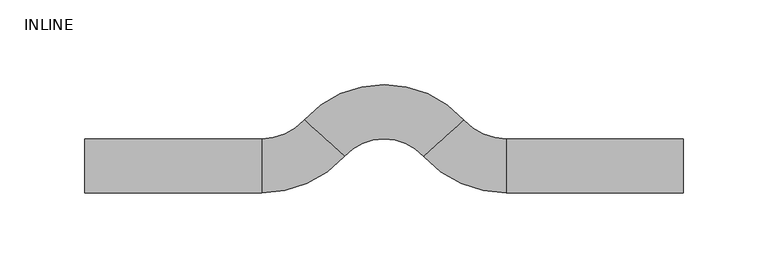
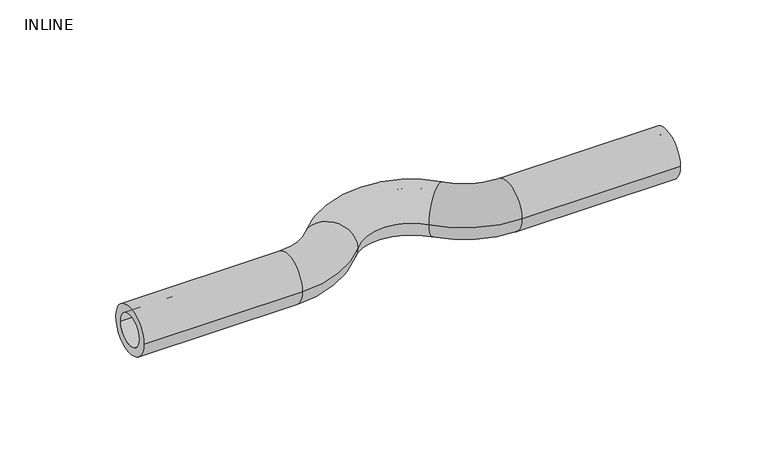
"""IFC4 building model written with IfcOpenShell, lengths in millimetres: pipe fitting geometry, Aquatherm - Cross Over : INLINE."""

from ifc_helpers import new_model, si_unit, point, frame, origin, place, context, project, spatial, polyline, circle_curve, ellipse_curve, trimmed, source, transform, mapped, element, save
from ifc_brep_helpers import plane_surface, cylinder_surface, revolved_surface, advanced_brep


def inline_933bd111(model_context):
    return source(origin(), model_context, "Body", "AdvancedBrep", [
        advanced_brep(
        [(-176.53, -16.002, 0.0), (-176.53, 16.002, 0.0), (-176.53, -10.541, 0.0), (-176.53, 10.541, 0.0), (-72.2414581, -10.541, 0.0), (-72.2414581, 10.541, 0.0), (-72.2414581, -16.002, 0.0), (-72.2414581, 16.002, 0.0), (-42.9874302, 23.5009531, 0.0), (-27.37274, 9.3364844, 0.0), (-47.0321993, 27.1700625, 0.0), (-23.3279709, 5.667375, 0.0), (42.9874302, 23.5009531, 0.0), (27.37274, 9.3364844, 0.0), (47.0321993, 27.1700625, 0.0), (23.3279709, 5.667375, 0.0), (72.2414581, 10.541, 0.0), (72.2414581, -10.541, 0.0), (72.2414581, 16.002, 0.0), (72.2414581, -16.002, 0.0), (176.53, -16.002, 0.0), (176.53, 16.002, 0.0), (176.53, -10.541, 0.0), (176.53, 10.541, 0.0)],
        [
            (0, 1, circle_curve(frame((-176.53, 0.0, 0.0), z_axis=(-1.0, 0.0, 0.0), x_axis=(0.0, 1.0, 0.0)), 16.002)),
            (1, 0, circle_curve(frame((-176.53, 0.0, 0.0), z_axis=(-1.0, 0.0, 0.0), x_axis=(0.0, 1.0, 0.0)), 16.002)),
            (2, 3, circle_curve(frame((-176.53, 0.0, 0.0), z_axis=(1.0, 0.0, 0.0), x_axis=(0.0, 1.0, 0.0)), 10.541)),
            (3, 2, circle_curve(frame((-176.53, 0.0, 0.0), z_axis=(1.0, 0.0, 0.0), x_axis=(0.0, 1.0, 0.0)), 10.541)),
            (2, 4),
            (4, 5, circle_curve(frame((-72.2414581, 0.0, 0.0), z_axis=(1.0, 0.0, 0.0), x_axis=(0.0, 1.0, 0.0)), 10.541)),
            (5, 3),
            (5, 4, circle_curve(frame((-72.2414581, 0.0, 0.0), z_axis=(1.0, 0.0, 0.0), x_axis=(0.0, 1.0, 0.0)), 10.541)),
            (0, 6),
            (6, 7, circle_curve(frame((-72.2414581, 0.0, 0.0), z_axis=(-1.0, 0.0, 0.0), x_axis=(0.0, 1.0, 0.0)), 16.002)),
            (7, 1),
            (7, 6, circle_curve(frame((-72.2414581, 0.0, 0.0), z_axis=(-1.0, 0.0, 0.0), x_axis=(0.0, 1.0, 0.0)), 16.002)),
            (8, 5, circle_curve(frame((-72.2414581, 50.038, 0.0), z_axis=(0.0, 0.0, -1.0), x_axis=(0.0, -1.0, 0.0)), 39.497)),
            (4, 9, circle_curve(frame((-72.2414581, 50.038, 0.0), z_axis=(0.0, 0.0, 1.0), x_axis=(0.0, -1.0, 0.0)), 60.579)),
            (9, 8, circle_curve(frame((-35.1800851, 16.4187187, 0.0), z_axis=(0.671875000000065, 0.7406645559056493, 0.0), x_axis=(-0.7406645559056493, 0.671875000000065, 0.0)), 10.541)),
            (8, 9, circle_curve(frame((-35.1800851, 16.4187187, 0.0), z_axis=(0.671875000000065, 0.7406645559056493, 0.0), x_axis=(-0.7406645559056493, 0.671875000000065, 0.0)), 10.541)),
            (10, 7, circle_curve(frame((-72.2414581, 50.038, 0.0), z_axis=(0.0, 0.0, -1.0), x_axis=(0.0, -1.0, 0.0)), 34.036)),
            (6, 11, circle_curve(frame((-72.2414581, 50.038, 0.0), z_axis=(0.0, 0.0, 1.0), x_axis=(0.0, -1.0, 0.0)), 66.04)),
            (11, 10, circle_curve(frame((-35.1800851, 16.4187187, 0.0), z_axis=(-0.671875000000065, -0.7406645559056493, 0.0), x_axis=(-0.7406645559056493, 0.671875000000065, 0.0)), 16.002)),
            (10, 11, circle_curve(frame((-35.1800851, 16.4187187, 0.0), z_axis=(-0.6718750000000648, -0.7406645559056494, 0.0), x_axis=(-0.7406645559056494, 0.6718750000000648, 0.0)), 16.002)),
            (12, 8, circle_curve(frame((0.0, -15.494, 0.0), z_axis=(0.0, 0.0, 1.0), x_axis=(-0.7406645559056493, 0.671875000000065, 0.0)), 58.039)),
            (9, 13, circle_curve(frame((0.0, -15.494, 0.0), z_axis=(0.0, 0.0, -1.0), x_axis=(-0.7406645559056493, 0.671875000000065, 0.0)), 36.957)),
            (13, 12, circle_curve(frame((35.1800851, 16.4187187, 0.0), z_axis=(0.6718749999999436, -0.7406645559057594, 0.0), x_axis=(0.7406645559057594, 0.6718749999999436, 0.0)), 10.541)),
            (12, 13, circle_curve(frame((35.1800851, 16.4187187, 0.0), z_axis=(0.6718749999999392, -0.7406645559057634, 0.0), x_axis=(0.7406645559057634, 0.6718749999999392, 0.0)), 10.541)),
            (14, 10, circle_curve(frame((0.0, -15.494, 0.0), z_axis=(0.0, 0.0, 1.0), x_axis=(-0.7406645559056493, 0.671875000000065, 0.0)), 63.5)),
            (11, 15, circle_curve(frame((0.0, -15.494, 0.0), z_axis=(0.0, 0.0, -1.0), x_axis=(-0.7406645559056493, 0.671875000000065, 0.0)), 31.496)),
            (15, 14, circle_curve(frame((35.1800851, 16.4187187, 0.0), z_axis=(-0.6718749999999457, 0.7406645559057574, 0.0), x_axis=(0.7406645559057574, 0.6718749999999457, 0.0)), 16.002)),
            (14, 15, circle_curve(frame((35.1800851, 16.4187187, 0.0), z_axis=(-0.6718749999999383, 0.7406645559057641, 0.0), x_axis=(0.7406645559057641, 0.6718749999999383, 0.0)), 16.002)),
            (16, 12, circle_curve(frame((72.2414581, 50.038, 0.0), z_axis=(0.0, 0.0, -1.0), x_axis=(-0.7406645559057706, -0.6718749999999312, 0.0)), 39.497)),
            (13, 17, circle_curve(frame((72.2414581, 50.038, 0.0), z_axis=(0.0, 0.0, 1.0), x_axis=(-0.7406645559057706, -0.6718749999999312, 0.0)), 60.579)),
            (17, 16, circle_curve(frame((72.2414581, 0.0, 0.0), z_axis=(1.0, 0.0, 0.0), x_axis=(0.0, 1.0, 0.0)), 10.541)),
            (16, 17, circle_curve(frame((72.2414581, 0.0, 0.0), z_axis=(1.0, 0.0, 0.0), x_axis=(0.0, 1.0, 0.0)), 10.541)),
            (18, 14, circle_curve(frame((72.2414581, 50.038, 0.0), z_axis=(0.0, 0.0, -1.0), x_axis=(-0.7406645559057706, -0.6718749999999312, 0.0)), 34.036)),
            (15, 19, circle_curve(frame((72.2414581, 50.038, 0.0), z_axis=(0.0, 0.0, 1.0), x_axis=(-0.7406645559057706, -0.6718749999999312, 0.0)), 66.04)),
            (19, 18, circle_curve(frame((72.2414581, 0.0, 0.0), z_axis=(-0.9999999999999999, 0.0, 0.0), x_axis=(0.0, 0.9999999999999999, 0.0)), 16.002)),
            (18, 19, circle_curve(frame((72.2414581, 0.0, 0.0), z_axis=(-1.0, 0.0, 0.0), x_axis=(0.0, 1.0, 0.0)), 16.002)),
            (20, 21, circle_curve(frame((176.53, 0.0, 0.0), z_axis=(1.0, 0.0, 0.0), x_axis=(0.0, 1.0, 0.0)), 16.002)),
            (21, 20, circle_curve(frame((176.53, 0.0, 0.0), z_axis=(1.0, 0.0, 0.0), x_axis=(0.0, 1.0, 0.0)), 16.002)),
            (22, 23, circle_curve(frame((176.53, 0.0, 0.0), z_axis=(-1.0, 0.0, 0.0), x_axis=(0.0, 1.0, 0.0)), 10.541)),
            (23, 22, circle_curve(frame((176.53, 0.0, 0.0), z_axis=(-1.0, 0.0, 0.0), x_axis=(0.0, 1.0, 0.0)), 10.541)),
            (17, 22),
            (23, 16),
            (19, 20),
            (21, 18),
        ],
        [
            plane_surface(frame((-176.53, 0.0, 0.0), z_axis=(-1.0, 0.0, 0.0), x_axis=(0.0, 0.0, 1.0))),
            revolved_surface(polyline([(-72.2414581, 10.541, 0.0), (-176.53, 10.541, 0.0)]), (-176.53, 0.0, 0.0), (1.0, 0.0, 0.0)),
            cylinder_surface(frame((-176.53, 0.0, 0.0), z_axis=(-1.0, 0.0, 0.0), x_axis=(0.0, 1.0, 0.0)), 16.002),
            revolved_surface(trimmed(ellipse_curve(frame((-72.2414581, 0.0, 0.0), z_axis=(1.0, 0.0, 0.0), x_axis=(0.0, 1.0, 0.0)), 10.541, 10.541), [point((-72.2414581, -10.541, 0.0))], [point((-72.2414581, 10.541, 0.0))], True, "CARTESIAN"), (-72.2414581, 50.038, 0.0), (0.0, 0.0, 1.0)),
            revolved_surface(trimmed(ellipse_curve(frame((-72.2414581, 0.0, 0.0), z_axis=(1.0, 0.0, 0.0), x_axis=(0.0, 1.0, 0.0)), 10.541, 10.541), [point((-72.2414581, 10.541, 0.0))], [point((-72.2414581, -10.541, 0.0))], True, "CARTESIAN"), (-72.2414581, 50.038, 0.0), (0.0, 0.0, 1.0)),
            revolved_surface(trimmed(ellipse_curve(frame((-72.2414581, 0.0, 0.0), z_axis=(-1.0, 0.0, 0.0), x_axis=(0.0, 1.0, 0.0)), 16.002, 16.002), [point((-72.2414581, -16.002, 0.0))], [point((-72.2414581, 16.002, 0.0))], True, "CARTESIAN"), (-72.2414581, 50.038, 0.0), (0.0, 0.0, 1.0)),
            revolved_surface(trimmed(ellipse_curve(frame((-72.2414581, 0.0, 0.0), z_axis=(-1.0, 0.0, 0.0), x_axis=(0.0, 1.0, 0.0)), 16.002, 16.002), [point((-72.2414581, 16.002, 0.0))], [point((-72.2414581, -16.002, 0.0))], True, "CARTESIAN"), (-72.2414581, 50.038, 0.0), (0.0, 0.0, 1.0)),
            revolved_surface(trimmed(ellipse_curve(frame((-35.1800851, 16.4187187, 0.0), z_axis=(0.671875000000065, 0.7406645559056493, 0.0), x_axis=(-0.7406645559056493, 0.671875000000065, 0.0)), 10.541, 10.541), [point((-27.37274, 9.3364844, 0.0))], [point((-42.9874302, 23.5009531, 0.0))], True, "CARTESIAN"), (0.0, -15.494, 0.0), (0.0, 0.0, -1.0)),
            revolved_surface(trimmed(ellipse_curve(frame((-35.1800851, 16.4187187, 0.0), z_axis=(0.671875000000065, 0.7406645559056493, 0.0), x_axis=(-0.7406645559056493, 0.671875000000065, 0.0)), 10.541, 10.541), [point((-42.9874302, 23.5009531, 0.0))], [point((-27.37274, 9.3364844, 0.0))], True, "CARTESIAN"), (0.0, -15.494, 0.0), (0.0, 0.0, -1.0)),
            revolved_surface(trimmed(ellipse_curve(frame((-35.1800851, 16.4187187, 0.0), z_axis=(-0.671875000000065, -0.7406645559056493, 0.0), x_axis=(-0.7406645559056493, 0.671875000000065, 0.0)), 16.002, 16.002), [point((-23.3279709, 5.667375, 0.0))], [point((-47.0321993, 27.1700625, 0.0))], True, "CARTESIAN"), (0.0, -15.494, 0.0), (0.0, 0.0, -1.0)),
            revolved_surface(trimmed(ellipse_curve(frame((-35.1800851, 16.4187187, 0.0), z_axis=(-0.671875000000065, -0.7406645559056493, 0.0), x_axis=(-0.7406645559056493, 0.671875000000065, 0.0)), 16.002, 16.002), [point((-47.0321993, 27.1700625, 0.0))], [point((-23.3279709, 5.667375, 0.0))], True, "CARTESIAN"), (0.0, -15.494, 0.0), (0.0, 0.0, -1.0)),
            revolved_surface(trimmed(ellipse_curve(frame((35.1800851, 16.4187187, 0.0), z_axis=(0.671874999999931, -0.7406645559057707, 0.0), x_axis=(0.7406645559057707, 0.671874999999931, 0.0)), 10.541, 10.541), [point((27.37274, 9.3364844, 0.0))], [point((42.9874302, 23.5009531, 0.0))], True, "CARTESIAN"), (72.2414581, 50.038, 0.0), (0.0, 0.0, 1.0)),
            revolved_surface(trimmed(ellipse_curve(frame((35.1800851, 16.4187187, 0.0), z_axis=(0.671874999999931, -0.7406645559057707, 0.0), x_axis=(0.7406645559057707, 0.671874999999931, 0.0)), 10.541, 10.541), [point((42.9874302, 23.5009531, 0.0))], [point((27.37274, 9.3364844, 0.0))], True, "CARTESIAN"), (72.2414581, 50.038, 0.0), (0.0, 0.0, 1.0)),
            revolved_surface(trimmed(ellipse_curve(frame((35.1800851, 16.4187187, 0.0), z_axis=(-0.671874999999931, 0.7406645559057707, 0.0), x_axis=(0.7406645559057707, 0.671874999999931, 0.0)), 16.002, 16.002), [point((23.3279709, 5.667375, 0.0))], [point((47.0321993, 27.1700625, 0.0))], True, "CARTESIAN"), (72.2414581, 50.038, 0.0), (0.0, 0.0, 1.0)),
            revolved_surface(trimmed(ellipse_curve(frame((35.1800851, 16.4187187, 0.0), z_axis=(-0.671874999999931, 0.7406645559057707, 0.0), x_axis=(0.7406645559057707, 0.671874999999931, 0.0)), 16.002, 16.002), [point((47.0321993, 27.1700625, 0.0))], [point((23.3279709, 5.667375, 0.0))], True, "CARTESIAN"), (72.2414581, 50.038, 0.0), (0.0, 0.0, 1.0)),
            plane_surface(frame((176.53, 0.0, 0.0), z_axis=(1.0, 0.0, 0.0), x_axis=(0.0, 0.0, 1.0))),
            revolved_surface(polyline([(176.53, 10.541, 0.0), (72.2414581, 10.541, 0.0)]), (72.2414581, 0.0, 0.0), (1.0, 0.0, 0.0)),
            cylinder_surface(frame((72.2414581, 0.0, 0.0), z_axis=(-1.0, 0.0, 0.0), x_axis=(0.0, 1.0, 0.0)), 16.002),
        ],
        [
            (0, [[1, 2], [3, 4]]),
            (1, [[-3, 5, 6, 7]]),
            (1, [[-4, -7, 8, -5]]),
            (2, [[-1, 9, 10, 11]]),
            (2, [[-2, -11, 12, -9]]),
            (3, [[13, -6, 14, 15]]),
            (4, [[-14, -8, -13, 16]]),
            (5, [[17, -10, 18, 19]]),
            (6, [[-18, -12, -17, 20]]),
            (7, [[21, -15, 22, 23]]),
            (8, [[-22, -16, -21, 24]]),
            (9, [[25, -19, 26, 27]]),
            (10, [[-26, -20, -25, 28]]),
            (11, [[29, -23, 30, 31]]),
            (12, [[-30, -24, -29, 32]]),
            (13, [[33, -27, 34, 35]]),
            (14, [[-34, -28, -33, 36]]),
            (15, [[37, 38], [39, 40]]),
            (16, [[-31, 41, -40, 42]]),
            (16, [[-32, -42, -39, -41]]),
            (17, [[-35, 43, -38, 44]]),
            (17, [[-36, -44, -37, -43]]),
        ],
    ),
    ])


if __name__ == "__main__":
    model = new_model("IFC4")
    model_context = context("Model", 3, world=origin())
    ifc_project = project(units=[si_unit("LENGTHUNIT", "METRE", prefix="MILLI")], contexts=[model_context])
    site = spatial("IfcSite", under=ifc_project)
    building = spatial("IfcBuilding", under=site)
    placement = place(None, origin())
    inline_shape = inline_933bd111(model_context)
    element("IfcPipeFitting", 1, ObjectType="Aquatherm - Cross Over : INLINE", at=placement, inside=building, context=model_context, shape_type="MappedRepresentation", body=[
        mapped(inline_shape, transform((0.0, 0.0, 0.0), x_axis=(1.0, 0.0, 0.0), y_axis=(0.0, 1.0, 0.0), z_axis=(0.0, 0.0, 1.0))),
    ])
    save(model, "model.ifc")
